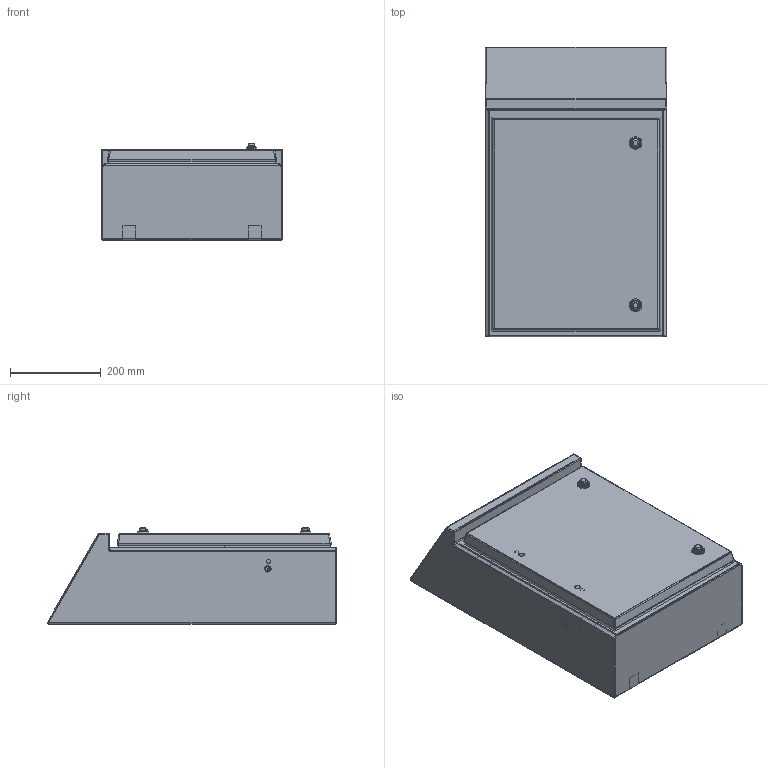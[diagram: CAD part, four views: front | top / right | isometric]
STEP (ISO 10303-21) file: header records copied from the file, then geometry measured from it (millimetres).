
FILE_DESCRIPTION (( 'STEP AP203' ), '1' );
FILE_NAME ('SITO-QSH45.STEP', '2021-04-29T07:59:54', ( '' ), ( '' ), 'SwSTEP 2.0', 'SolidWorks 2020', '' );
FILE_SCHEMA (( 'CONFIG_CONTROL_DESIGN' ));
Length unit declared in the file: millimetre
Products named in the file (18): 1000-S1491; ADMT_ADMT; GHIERA SG CASSETTE; RP0612I; Scarpetta H.32 SG460-SD_Configurazione 2; DM06I; SITO-FASCIAME QSH45_QSH45; CEPOM(CORPO); SITO-ASSIEME PORTA QSH45; SVPIQSH45A; SG460-32-HD_Posizione 4; DMFD08Z; PIQSH45A; SG460-32-HD_Posizione 3; CERNIERA; SITO-PORTA QSH45; PRM615TL316; SITO-QSH45
Assembly tree (31 placements, depth 4):
  SITO-QSH45
    SITO-FASCIAME QSH45_QSH45
    PIQSH45A
      SVPIQSH45A
    SITO-ASSIEME PORTA QSH45
      SITO-PORTA QSH45
      SG460-32-HD_Posizione 4
        1000-S1491
        GHIERA SG CASSETTE
        Scarpetta H.32 SG460-SD_Configurazione 2
        CEPOM(CORPO)
      SG460-32-HD_Posizione 3
        1000-S1491
        GHIERA SG CASSETTE
        Scarpetta H.32 SG460-SD_Configurazione 2
        CEPOM(CORPO)
      PRM615TL316  x2
      ADMT_ADMT  x2
      RP0612I  x2
      DM06I  x2
    DMFD08Z  x4
    ADMT_ADMT  x2
    CERNIERA  x2
Bounding box: 400 x 637.07 x 211.59 mm (x, y, z)
Volume: 2267496.3 mm3; surface area: 2366524.6 mm2
Topology: 33 solids, 33 shells, 1480 faces, 3617 edges, 2243 vertices
Faces by surface type: plane 766, cylinder 462, cone 124, bspline 86, sphere 28, torus 14
Entity records: 32040 total; most frequent: CARTESIAN_POINT 8103, DIRECTION 4556, ORIENTED_EDGE 4494, EDGE_CURVE 2247, AXIS2_PLACEMENT_3D 1590, VERTEX_POINT 1394, LINE 1376, VECTOR 1376
